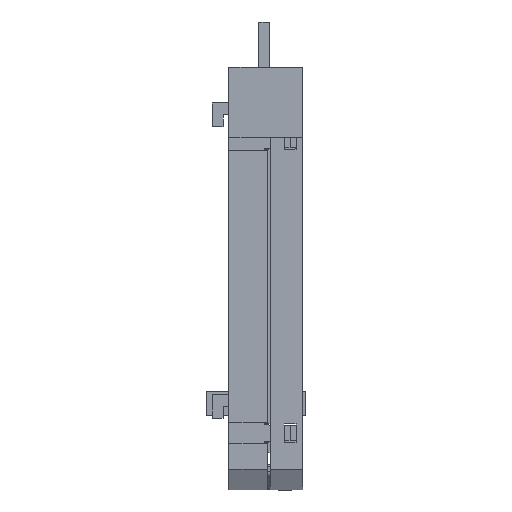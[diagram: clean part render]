
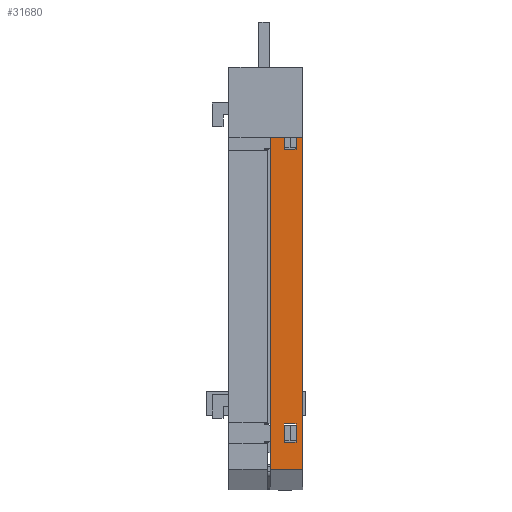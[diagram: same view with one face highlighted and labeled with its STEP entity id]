
A CAD part, front view. The second image highlights one B-rep face of the part: STEP entity #31680.
In plain terms, the highlighted planar face has unit normal (0, -1, 0).
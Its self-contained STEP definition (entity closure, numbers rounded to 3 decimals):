
#730 = CARTESIAN_POINT ( 'NONE',  ( 0., 0., 0. ) ) ;
#865 = VERTEX_POINT ( 'NONE', #15455 ) ;
#1071 = CARTESIAN_POINT ( 'NONE',  ( 0., 0., -65.25 ) ) ;
#1277 = DIRECTION ( 'NONE',  ( 0., 0., 1. ) ) ;
#1866 = DIRECTION ( 'NONE',  ( 0., 0., 1. ) ) ;
#2031 = DIRECTION ( 'NONE',  ( -1., 0., 0. ) ) ;
#2391 = DIRECTION ( 'NONE',  ( 0., 0., -1. ) ) ;
#2659 = LINE ( 'NONE', #22765, #16010 ) ;
#3617 = CARTESIAN_POINT ( 'NONE',  ( 5.5, 0., -65.25 ) ) ;
#3784 = VECTOR ( 'NONE', #15942, 1000. ) ;
#3857 = CARTESIAN_POINT ( 'NONE',  ( 0., 0., 0. ) ) ;
#4633 = EDGE_CURVE ( 'NONE', #11541, #21314, #15445, .T. ) ;
#4667 = EDGE_CURVE ( 'NONE', #5552, #33045, #25144, .T. ) ;
#5043 = EDGE_CURVE ( 'NONE', #9233, #23246, #2659, .T. ) ;
#5128 = ORIENTED_EDGE ( 'NONE', *, *, #5995, .F. ) ;
#5289 = VECTOR ( 'NONE', #19063, 1000. ) ;
#5437 = LINE ( 'NONE', #3617, #12325 ) ;
#5552 = VERTEX_POINT ( 'NONE', #24871 ) ;
#5564 = CARTESIAN_POINT ( 'NONE',  ( 2.4, 0., -57.545 ) ) ;
#5730 = CARTESIAN_POINT ( 'NONE',  ( 2.4, 0., -7.845 ) ) ;
#5888 = FACE_BOUND ( 'NONE', #12047, .T. ) ;
#5995 = EDGE_CURVE ( 'NONE', #8795, #8936, #5437, .T. ) ;
#6636 = EDGE_CURVE ( 'NONE', #33045, #19740, #30432, .T. ) ;
#6793 = VECTOR ( 'NONE', #25889, 1000. ) ;
#8308 = FACE_OUTER_BOUND ( 'NONE', #22612, .T. ) ;
#8410 = ORIENTED_EDGE ( 'NONE', *, *, #6636, .T. ) ;
#8751 = LINE ( 'NONE', #17247, #22478 ) ;
#8795 = VERTEX_POINT ( 'NONE', #18523 ) ;
#8842 = ORIENTED_EDGE ( 'NONE', *, *, #5043, .T. ) ;
#8936 = VERTEX_POINT ( 'NONE', #1071 ) ;
#9233 = VERTEX_POINT ( 'NONE', #28217 ) ;
#9541 = CARTESIAN_POINT ( 'NONE',  ( 5.5, 0., 0. ) ) ;
#9748 = CARTESIAN_POINT ( 'NONE',  ( 4.4, 0., -57.545 ) ) ;
#9826 = CARTESIAN_POINT ( 'NONE',  ( 2.4, 0., -57.545 ) ) ;
#10412 = ORIENTED_EDGE ( 'NONE', *, *, #29942, .T. ) ;
#10520 = LINE ( 'NONE', #730, #24248 ) ;
#11077 = EDGE_CURVE ( 'NONE', #23246, #11541, #19137, .T. ) ;
#11253 = CARTESIAN_POINT ( 'NONE',  ( 2.4, 0., -60.645 ) ) ;
#11406 = AXIS2_PLACEMENT_3D ( 'NONE', #9541, #14739, #32779 ) ;
#11541 = VERTEX_POINT ( 'NONE', #5730 ) ;
#11909 = CARTESIAN_POINT ( 'NONE',  ( 2.4, 0., -7.845 ) ) ;
#12047 = EDGE_LOOP ( 'NONE', ( #20189, #22098, #8410, #10412 ) ) ;
#12138 = PLANE ( 'NONE',  #11406 ) ;
#12184 = LINE ( 'NONE', #31928, #5289 ) ;
#12325 = VECTOR ( 'NONE', #19059, 1000. ) ;
#12586 = ORIENTED_EDGE ( 'NONE', *, *, #4633, .T. ) ;
#13359 = CARTESIAN_POINT ( 'NONE',  ( 4.4, 0., -7.845 ) ) ;
#14095 = VECTOR ( 'NONE', #2391, 1000. ) ;
#14137 = CARTESIAN_POINT ( 'NONE',  ( 2.4, 0., -10.945 ) ) ;
#14301 = CARTESIAN_POINT ( 'NONE',  ( 2.4, 0., -10.945 ) ) ;
#14385 = DIRECTION ( 'NONE',  ( 1., 0., 0. ) ) ;
#14729 = CARTESIAN_POINT ( 'NONE',  ( 2.4, 0., -60.645 ) ) ;
#14739 = DIRECTION ( 'NONE',  ( 0., 1., 0. ) ) ;
#15445 = LINE ( 'NONE', #11909, #21473 ) ;
#15455 = CARTESIAN_POINT ( 'NONE',  ( 4.4, 0., -60.645 ) ) ;
#15488 = EDGE_CURVE ( 'NONE', #25420, #8936, #10520, .T. ) ;
#15942 = DIRECTION ( 'NONE',  ( 1., 0., 0. ) ) ;
#16010 = VECTOR ( 'NONE', #2031, 1000. ) ;
#16109 = ORIENTED_EDGE ( 'NONE', *, *, #25405, .T. ) ;
#16179 = DIRECTION ( 'NONE',  ( 0., 0., -1. ) ) ;
#17247 = CARTESIAN_POINT ( 'NONE',  ( 4.4, 0., -60.645 ) ) ;
#17484 = EDGE_CURVE ( 'NONE', #865, #5552, #24446, .T. ) ;
#17857 = CARTESIAN_POINT ( 'NONE',  ( 4.4, 0., -10.945 ) ) ;
#18299 = VECTOR ( 'NONE', #1277, 1000. ) ;
#18365 = VECTOR ( 'NONE', #24087, 1000. ) ;
#18523 = CARTESIAN_POINT ( 'NONE',  ( 5.5, 0., -65.25 ) ) ;
#18787 = FACE_BOUND ( 'NONE', #32985, .T. ) ;
#19059 = DIRECTION ( 'NONE',  ( -1., 0., 0. ) ) ;
#19063 = DIRECTION ( 'NONE',  ( -1., 0., 0. ) ) ;
#19137 = LINE ( 'NONE', #14137, #18299 ) ;
#19412 = ORIENTED_EDGE ( 'NONE', *, *, #29661, .F. ) ;
#19740 = VERTEX_POINT ( 'NONE', #9748 ) ;
#20189 = ORIENTED_EDGE ( 'NONE', *, *, #17484, .T. ) ;
#20196 = EDGE_CURVE ( 'NONE', #21314, #9233, #27817, .T. ) ;
#20472 = LINE ( 'NONE', #23296, #6793 ) ;
#21314 = VERTEX_POINT ( 'NONE', #13359 ) ;
#21473 = VECTOR ( 'NONE', #14385, 1000. ) ;
#22098 = ORIENTED_EDGE ( 'NONE', *, *, #4667, .T. ) ;
#22478 = VECTOR ( 'NONE', #24759, 1000. ) ;
#22612 = EDGE_LOOP ( 'NONE', ( #26179, #5128, #19412, #16109 ) ) ;
#22765 = CARTESIAN_POINT ( 'NONE',  ( 2.4, 0., -10.945 ) ) ;
#23056 = VERTEX_POINT ( 'NONE', #23427 ) ;
#23246 = VERTEX_POINT ( 'NONE', #14301 ) ;
#23296 = CARTESIAN_POINT ( 'NONE',  ( 5.5, 0., 0. ) ) ;
#23427 = CARTESIAN_POINT ( 'NONE',  ( 5.5, 0., 0. ) ) ;
#24087 = DIRECTION ( 'NONE',  ( -1., 0., 0. ) ) ;
#24248 = VECTOR ( 'NONE', #16179, 1000. ) ;
#24446 = LINE ( 'NONE', #11253, #18365 ) ;
#24759 = DIRECTION ( 'NONE',  ( 0., 0., -1. ) ) ;
#24871 = CARTESIAN_POINT ( 'NONE',  ( 2.4, 0., -60.645 ) ) ;
#25144 = LINE ( 'NONE', #14729, #32007 ) ;
#25405 = EDGE_CURVE ( 'NONE', #23056, #25420, #12184, .T. ) ;
#25420 = VERTEX_POINT ( 'NONE', #3857 ) ;
#25889 = DIRECTION ( 'NONE',  ( 0., 0., -1. ) ) ;
#26179 = ORIENTED_EDGE ( 'NONE', *, *, #15488, .T. ) ;
#27744 = ORIENTED_EDGE ( 'NONE', *, *, #20196, .T. ) ;
#27817 = LINE ( 'NONE', #17857, #14095 ) ;
#28217 = CARTESIAN_POINT ( 'NONE',  ( 4.4, 0., -10.945 ) ) ;
#29661 = EDGE_CURVE ( 'NONE', #23056, #8795, #20472, .T. ) ;
#29942 = EDGE_CURVE ( 'NONE', #19740, #865, #8751, .T. ) ;
#30432 = LINE ( 'NONE', #5564, #3784 ) ;
#31680 = ADVANCED_FACE ( 'NONE', ( #18787, #5888, #8308 ), #12138, .F. ) ;
#31928 = CARTESIAN_POINT ( 'NONE',  ( 5.5, 0., 0. ) ) ;
#32007 = VECTOR ( 'NONE', #1866, 1000. ) ;
#32779 = DIRECTION ( 'NONE',  ( 0., 0., 1. ) ) ;
#32985 = EDGE_LOOP ( 'NONE', ( #33077, #12586, #27744, #8842 ) ) ;
#33045 = VERTEX_POINT ( 'NONE', #9826 ) ;
#33077 = ORIENTED_EDGE ( 'NONE', *, *, #11077, .T. ) ;
